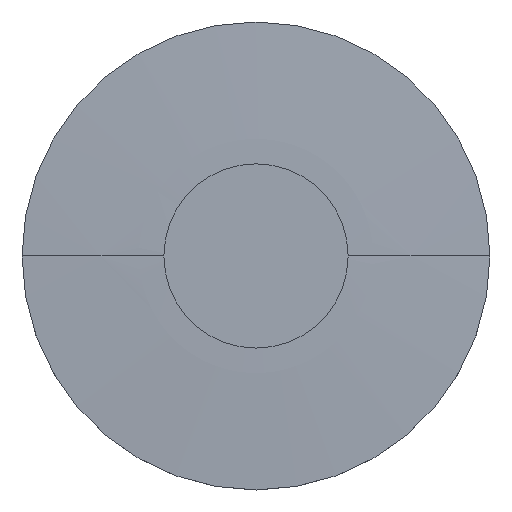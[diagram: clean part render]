
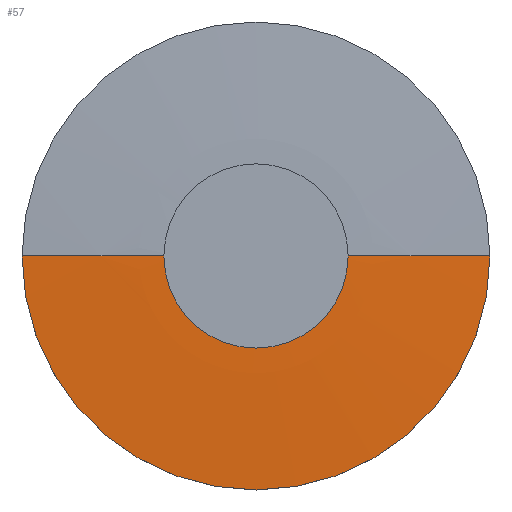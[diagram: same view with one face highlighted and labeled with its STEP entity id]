
A CAD part, top view. The second image highlights one B-rep face of the part: STEP entity #57.
In plain terms, the highlighted spherical face has radius 529.942 mm.
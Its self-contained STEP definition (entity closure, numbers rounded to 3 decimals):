
#57=ADVANCED_FACE('',(#71),#72,.T.);
#71=FACE_OUTER_BOUND('',#91,.T.);
#72=SPHERICAL_SURFACE('',#92,529.942);
#91=EDGE_LOOP('',(#124,#125,#126));
#92=AXIS2_PLACEMENT_3D('',#127,#128,#129);
#124=ORIENTED_EDGE('',*,*,#173,.T.);
#125=ORIENTED_EDGE('',*,*,#174,.T.);
#126=ORIENTED_EDGE('',*,*,#175,.T.);
#127=CARTESIAN_POINT('',(0.0,0.0,-523.942));
#128=DIRECTION('',(0.0,0.0,1.0));
#129=DIRECTION('',(1.0,0.0,0.0));
#173=EDGE_CURVE('',#189,#194,#195,.T.);
#174=EDGE_CURVE('',#194,#191,#196,.T.);
#175=EDGE_CURVE('',#191,#189,#197,.T.);
#189=VERTEX_POINT('',#215);
#191=VERTEX_POINT('',#218);
#194=VERTEX_POINT('',#222);
#195=CIRCLE('',#223,529.942);
#196=CIRCLE('',#224,529.942);
#197=CIRCLE('',#225,25.4);
#215=CARTESIAN_POINT('',(25.4,0.,5.391));
#218=CARTESIAN_POINT('',(-25.4,0.,5.391));
#222=CARTESIAN_POINT('',(0.0,0.0,6.));
#223=AXIS2_PLACEMENT_3D('',#253,#254,#255);
#224=AXIS2_PLACEMENT_3D('',#256,#257,#258);
#225=AXIS2_PLACEMENT_3D('',#259,#260,#261);
#253=CARTESIAN_POINT('',(0.0,0.0,-523.942));
#254=DIRECTION('',(0.,-1.0,0.0));
#255=DIRECTION('',(0.0,0.0,1.0));
#256=CARTESIAN_POINT('',(0.0,0.0,-523.942));
#257=DIRECTION('',(0.,-1.0,0.0));
#258=DIRECTION('',(0.0,0.0,1.0));
#259=CARTESIAN_POINT('',(0.0,0.0,5.391));
#260=DIRECTION('',(0.0,0.0,1.0));
#261=DIRECTION('',(1.0,0.0,0.0));
